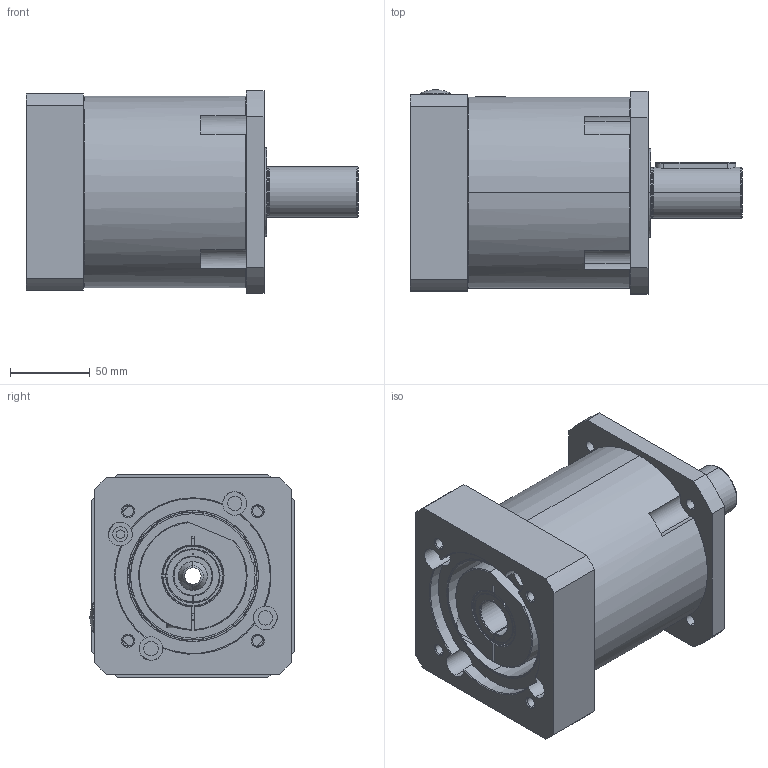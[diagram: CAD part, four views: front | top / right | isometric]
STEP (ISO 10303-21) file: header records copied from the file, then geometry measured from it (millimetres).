
FILE_DESCRIPTION (( 'STEP AP214' ), '1' );
FILE_NAME ('AL-042-0RR-FFF-MMM-S-LL-XXX-AXX-0000.STEP', '2019-10-23T15:39:11', ( '' ), ( '' ), 'SwSTEP 2.0', 'SolidWorks 2019', '' );
FILE_SCHEMA (( 'AUTOMOTIVE_DESIGN' ));
Length unit declared in the file: millimetre
Products named in the file (1): AL-042-0RR-FFF-MMM-S-LL-XXX-AXX-0000
Bounding box: 208 x 128.1 x 127 mm (x, y, z)
Surface area: 155493.2 mm2 (no closed solid volume)
Topology: 0 solids, 75 shells, 358 faces, 2164 edges, 1859 vertices
Faces by surface type: plane 162, cylinder 104, cone 52, torus 31, bspline 7, sphere 2
Entity records: 32504 total; most frequent: CARTESIAN_POINT 13439, ORIENTED_EDGE 2761, DIRECTION 2570, EDGE_CURVE 2156, VERTEX_POINT 1859, LINE 1038, VECTOR 1038, AXIS2_PLACEMENT_3D 766
